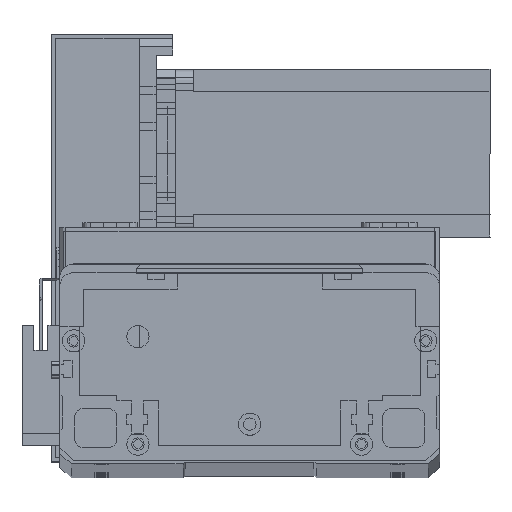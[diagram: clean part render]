
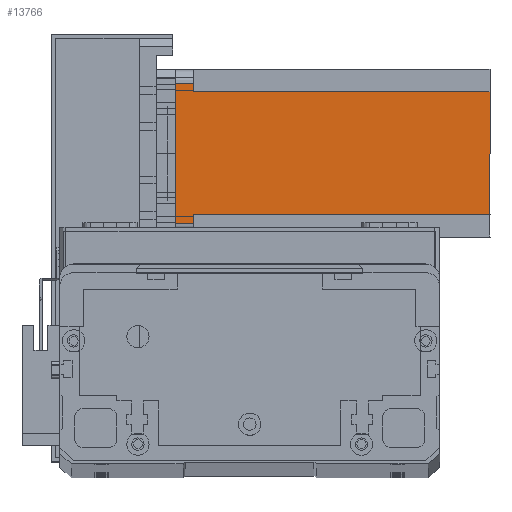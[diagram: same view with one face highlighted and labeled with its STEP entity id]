
A CAD part, top view. The second image highlights one B-rep face of the part: STEP entity #13766.
In plain terms, the highlighted planar face has unit normal (0, 0, 1) as drawn and (0, -1, 0) by its records, which use the part's own axes.
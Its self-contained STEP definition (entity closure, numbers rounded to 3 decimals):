
#1295 = CARTESIAN_POINT ( 'NONE',  ( 5., 0., -6.5 ) ) ;
#1464 = VECTOR ( 'NONE', #13823, 1000. ) ;
#1757 = CARTESIAN_POINT ( 'NONE',  ( 52., 0., -6.5 ) ) ;
#2006 = VERTEX_POINT ( 'NONE', #25166 ) ;
#2211 = LINE ( 'NONE', #13791, #1464 ) ;
#2222 = LINE ( 'NONE', #7874, #20916 ) ;
#4039 = LINE ( 'NONE', #4805, #8796 ) ;
#4627 = DIRECTION ( 'NONE',  ( -1., 0., 0. ) ) ;
#4805 = CARTESIAN_POINT ( 'NONE',  ( 8., 0., -6.5 ) ) ;
#4854 = ORIENTED_EDGE ( 'NONE', *, *, #4903, .T. ) ;
#4871 = CARTESIAN_POINT ( 'NONE',  ( 5., 0., 0. ) ) ;
#4903 = EDGE_CURVE ( 'NONE', #6198, #12043, #20749, .T. ) ;
#5063 = DIRECTION ( 'NONE',  ( 0., 0., 1. ) ) ;
#5938 = CARTESIAN_POINT ( 'NONE',  ( 55., 0., -112.5 ) ) ;
#6198 = VERTEX_POINT ( 'NONE', #18444 ) ;
#6336 = VECTOR ( 'NONE', #9789, 1000. ) ;
#6822 = AXIS2_PLACEMENT_3D ( 'NONE', #15427, #15477, #15340 ) ;
#7054 = VECTOR ( 'NONE', #20240, 1000. ) ;
#7250 = VECTOR ( 'NONE', #5063, 1000. ) ;
#7805 = EDGE_CURVE ( 'NONE', #12043, #24767, #14486, .T. ) ;
#7874 = CARTESIAN_POINT ( 'NONE',  ( 8., 0., -112.5 ) ) ;
#8242 = LINE ( 'NONE', #19976, #20399 ) ;
#8796 = VECTOR ( 'NONE', #4627, 1000. ) ;
#9022 = EDGE_CURVE ( 'NONE', #22885, #16252, #2211, .T. ) ;
#9051 = VERTEX_POINT ( 'NONE', #13574 ) ;
#9690 = CARTESIAN_POINT ( 'NONE',  ( 8., 0., -6.5 ) ) ;
#9789 = DIRECTION ( 'NONE',  ( 0., 0., -1. ) ) ;
#9835 = VECTOR ( 'NONE', #27209, 1000. ) ;
#10036 = CARTESIAN_POINT ( 'NONE',  ( 52., 0., -112.5 ) ) ;
#10498 = VERTEX_POINT ( 'NONE', #9690 ) ;
#10672 = EDGE_CURVE ( 'NONE', #10498, #16252, #4039, .T. ) ;
#11087 = EDGE_CURVE ( 'NONE', #9051, #10498, #2222, .T. ) ;
#12043 = VERTEX_POINT ( 'NONE', #21821 ) ;
#12238 = EDGE_CURVE ( 'NONE', #9051, #2006, #28121, .T. ) ;
#12807 = LINE ( 'NONE', #10036, #6336 ) ;
#13109 = EDGE_CURVE ( 'NONE', #6198, #2006, #12807, .T. ) ;
#13574 = CARTESIAN_POINT ( 'NONE',  ( 8., 0., -112.5 ) ) ;
#13766 = ADVANCED_FACE ( 'NONE', ( #19643 ), #15348, .T. ) ;
#13791 = CARTESIAN_POINT ( 'NONE',  ( 5., 0., -112.5 ) ) ;
#13823 = DIRECTION ( 'NONE',  ( 0., 0., -1. ) ) ;
#14486 = LINE ( 'NONE', #5938, #7250 ) ;
#15340 = DIRECTION ( 'NONE',  ( 0., 0., -1. ) ) ;
#15348 = PLANE ( 'NONE',  #6822 ) ;
#15427 = CARTESIAN_POINT ( 'NONE',  ( 0., 0., -112.5 ) ) ;
#15477 = DIRECTION ( 'NONE',  ( 0., -1., 0. ) ) ;
#16252 = VERTEX_POINT ( 'NONE', #1295 ) ;
#18185 = ORIENTED_EDGE ( 'NONE', *, *, #9022, .T. ) ;
#18444 = CARTESIAN_POINT ( 'NONE',  ( 52., 0., -6.5 ) ) ;
#18752 = ORIENTED_EDGE ( 'NONE', *, *, #11087, .F. ) ;
#18830 = ORIENTED_EDGE ( 'NONE', *, *, #12238, .T. ) ;
#19643 = FACE_OUTER_BOUND ( 'NONE', #30511, .T. ) ;
#19976 = CARTESIAN_POINT ( 'NONE',  ( 0., 0., 0. ) ) ;
#20240 = DIRECTION ( 'NONE',  ( 1., 0., 0. ) ) ;
#20399 = VECTOR ( 'NONE', #27023, 1000. ) ;
#20749 = LINE ( 'NONE', #1757, #7054 ) ;
#20916 = VECTOR ( 'NONE', #24874, 1000. ) ;
#21821 = CARTESIAN_POINT ( 'NONE',  ( 55., 0., -6.5 ) ) ;
#22235 = ORIENTED_EDGE ( 'NONE', *, *, #7805, .T. ) ;
#22314 = ORIENTED_EDGE ( 'NONE', *, *, #10672, .F. ) ;
#22885 = VERTEX_POINT ( 'NONE', #4871 ) ;
#24767 = VERTEX_POINT ( 'NONE', #26470 ) ;
#24874 = DIRECTION ( 'NONE',  ( 0., 0., 1. ) ) ;
#25166 = CARTESIAN_POINT ( 'NONE',  ( 52., 0., -112.5 ) ) ;
#26470 = CARTESIAN_POINT ( 'NONE',  ( 55., 0., 0. ) ) ;
#26943 = ORIENTED_EDGE ( 'NONE', *, *, #28917, .F. ) ;
#27023 = DIRECTION ( 'NONE',  ( 1., 0., 0. ) ) ;
#27134 = CARTESIAN_POINT ( 'NONE',  ( 0., 0., -112.5 ) ) ;
#27209 = DIRECTION ( 'NONE',  ( 1., 0., 0. ) ) ;
#28121 = LINE ( 'NONE', #27134, #9835 ) ;
#28917 = EDGE_CURVE ( 'NONE', #22885, #24767, #8242, .T. ) ;
#30483 = ORIENTED_EDGE ( 'NONE', *, *, #13109, .F. ) ;
#30511 = EDGE_LOOP ( 'NONE', ( #4854, #22235, #26943, #18185, #22314, #18752, #18830, #30483 ) ) ;
